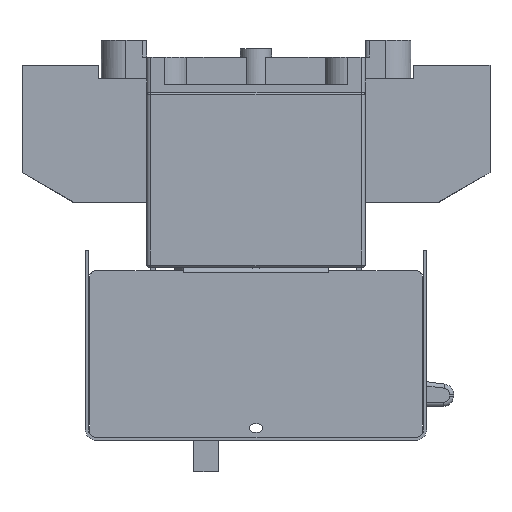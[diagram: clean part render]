
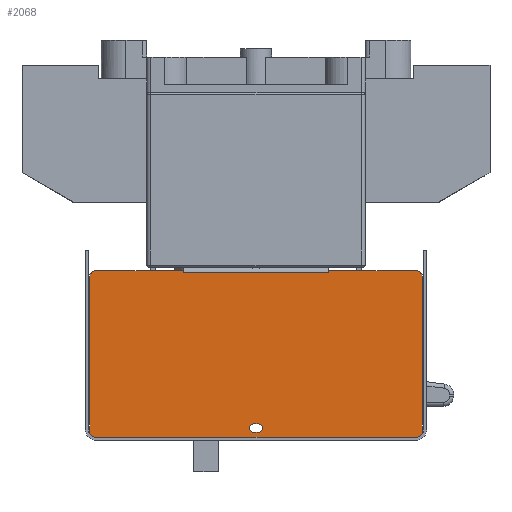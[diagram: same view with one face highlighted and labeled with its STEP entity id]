
A CAD part, left-side view. The second image highlights one B-rep face of the part: STEP entity #2068.
In plain terms, the highlighted planar face has unit normal (-1, 0, 0).
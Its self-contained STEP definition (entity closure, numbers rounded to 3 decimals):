
#2068=ADVANCED_FACE('',(#8703,#8704),#3113,.T.);
#3113=PLANE('',#23918);
#4702=LINE('',#34637,#7209);
#4712=LINE('',#34662,#7219);
#4714=LINE('',#34666,#7221);
#4716=LINE('',#34670,#7223);
#4719=LINE('',#34676,#7226);
#4729=LINE('',#34711,#7236);
#4730=LINE('',#34715,#7237);
#4731=LINE('',#34716,#7238);
#4732=LINE('',#34720,#7239);
#4733=LINE('',#34724,#7240);
#4734=LINE('',#34728,#7241);
#4735=LINE('',#34732,#7242);
#7209=VECTOR('',#27832,1.);
#7219=VECTOR('',#27858,1.);
#7221=VECTOR('',#27862,1.);
#7223=VECTOR('',#27866,1.);
#7226=VECTOR('',#27871,1.);
#7236=VECTOR('',#27899,1.);
#7237=VECTOR('',#27902,1.);
#7238=VECTOR('',#27903,1.);
#7239=VECTOR('',#27906,1.);
#7240=VECTOR('',#27909,1.);
#7241=VECTOR('',#27912,1.);
#7242=VECTOR('',#27915,1.);
#8703=FACE_BOUND('',#9438,.T.);
#8704=FACE_BOUND('',#9439,.T.);
#9438=EDGE_LOOP('',(#13157,#13158,#13159,#13160));
#9439=EDGE_LOOP('',(#13161,#13162,#13163,#13164,#13165,#13166,#13167,#13168,
#13169,#13170,#13171,#13172,#13173,#13174));
#13157=ORIENTED_EDGE('',*,*,#20493,.T.);
#13158=ORIENTED_EDGE('',*,*,#20494,.T.);
#13159=ORIENTED_EDGE('',*,*,#20495,.T.);
#13160=ORIENTED_EDGE('',*,*,#20496,.T.);
#13161=ORIENTED_EDGE('',*,*,#20472,.F.);
#13162=ORIENTED_EDGE('',*,*,#20470,.T.);
#13163=ORIENTED_EDGE('',*,*,#20457,.T.);
#13164=ORIENTED_EDGE('',*,*,#20474,.T.);
#13165=ORIENTED_EDGE('',*,*,#20477,.F.);
#13166=ORIENTED_EDGE('',*,*,#20497,.T.);
#13167=ORIENTED_EDGE('',*,*,#20498,.T.);
#13168=ORIENTED_EDGE('',*,*,#20499,.T.);
#13169=ORIENTED_EDGE('',*,*,#20500,.T.);
#13170=ORIENTED_EDGE('',*,*,#20501,.T.);
#13171=ORIENTED_EDGE('',*,*,#20502,.T.);
#13172=ORIENTED_EDGE('',*,*,#20503,.T.);
#13173=ORIENTED_EDGE('',*,*,#20504,.T.);
#13174=ORIENTED_EDGE('',*,*,#20505,.T.);
#17820=VERTEX_POINT('',#34636);
#17821=VERTEX_POINT('',#34638);
#17826=VERTEX_POINT('',#34659);
#17829=VERTEX_POINT('',#34667);
#17830=VERTEX_POINT('',#34671);
#17832=VERTEX_POINT('',#34677);
#17846=VERTEX_POINT('',#34709);
#17847=VERTEX_POINT('',#34710);
#17848=VERTEX_POINT('',#34712);
#17849=VERTEX_POINT('',#34714);
#17850=VERTEX_POINT('',#34717);
#17851=VERTEX_POINT('',#34719);
#17852=VERTEX_POINT('',#34721);
#17853=VERTEX_POINT('',#34723);
#17854=VERTEX_POINT('',#34725);
#17855=VERTEX_POINT('',#34727);
#17856=VERTEX_POINT('',#34729);
#17857=VERTEX_POINT('',#34731);
#20457=EDGE_CURVE('',#17821,#17820,#4702,.T.);
#20470=EDGE_CURVE('',#17826,#17821,#4712,.T.);
#20472=EDGE_CURVE('',#17826,#17829,#4714,.T.);
#20474=EDGE_CURVE('',#17820,#17830,#4716,.T.);
#20477=EDGE_CURVE('',#17832,#17830,#4719,.T.);
#20493=EDGE_CURVE('',#17846,#17847,#22597,.T.);
#20494=EDGE_CURVE('',#17847,#17848,#4729,.T.);
#20495=EDGE_CURVE('',#17848,#17849,#22598,.T.);
#20496=EDGE_CURVE('',#17849,#17846,#4730,.T.);
#20497=EDGE_CURVE('',#17832,#17850,#4731,.T.);
#20498=EDGE_CURVE('',#17850,#17851,#22599,.T.);
#20499=EDGE_CURVE('',#17851,#17852,#4732,.T.);
#20500=EDGE_CURVE('',#17852,#17853,#22600,.T.);
#20501=EDGE_CURVE('',#17853,#17854,#4733,.T.);
#20502=EDGE_CURVE('',#17854,#17855,#22601,.T.);
#20503=EDGE_CURVE('',#17855,#17856,#4734,.T.);
#20504=EDGE_CURVE('',#17856,#17857,#22602,.T.);
#20505=EDGE_CURVE('',#17857,#17829,#4735,.T.);
#22597=CIRCLE('',#23912,2.1);
#22598=CIRCLE('',#23913,2.1);
#22599=CIRCLE('',#23914,3.);
#22600=CIRCLE('',#23915,3.);
#22601=CIRCLE('',#23916,3.);
#22602=CIRCLE('',#23917,3.);
#23912=AXIS2_PLACEMENT_3D('',#34708,#27897,#27898);
#23913=AXIS2_PLACEMENT_3D('',#34713,#27900,#27901);
#23914=AXIS2_PLACEMENT_3D('',#34718,#27904,#27905);
#23915=AXIS2_PLACEMENT_3D('',#34722,#27907,#27908);
#23916=AXIS2_PLACEMENT_3D('',#34726,#27910,#27911);
#23917=AXIS2_PLACEMENT_3D('',#34730,#27913,#27914);
#23918=AXIS2_PLACEMENT_3D('',#34733,#27916,#27917);
#27832=DIRECTION('',(0.,1.,0.));
#27858=DIRECTION('',(0.,1.,0.));
#27862=DIRECTION('',(0.,0.,1.));
#27866=DIRECTION('',(0.,1.,0.));
#27871=DIRECTION('',(0.,0.,-1.));
#27897=DIRECTION('',(1.,0.,0.));
#27898=DIRECTION('',(0.,1.,0.));
#27899=DIRECTION('',(0.,-1.,0.));
#27900=DIRECTION('',(1.,0.,0.));
#27901=DIRECTION('',(0.,1.,0.));
#27902=DIRECTION('',(0.,1.,0.));
#27903=DIRECTION('',(0.,1.,0.));
#27904=DIRECTION('',(-1.,0.,0.));
#27905=DIRECTION('',(0.,1.,0.));
#27906=DIRECTION('',(0.,0.,-1.));
#27907=DIRECTION('',(-1.,0.,0.));
#27908=DIRECTION('',(0.,1.,0.));
#27909=DIRECTION('',(0.,-1.,0.));
#27910=DIRECTION('',(-1.,0.,0.));
#27911=DIRECTION('',(0.,1.,0.));
#27912=DIRECTION('',(0.,0.,1.));
#27913=DIRECTION('',(-1.,0.,0.));
#27914=DIRECTION('',(0.,1.,0.));
#27915=DIRECTION('',(0.,1.,0.));
#27916=DIRECTION('',(-1.,0.,0.));
#27917=DIRECTION('',(0.,-1.,0.));
#34636=CARTESIAN_POINT('',(-189.3,35.,-86.8));
#34637=CARTESIAN_POINT('',(-189.3,50.5,-86.8));
#34638=CARTESIAN_POINT('',(-189.3,-35.,-86.8));
#34659=CARTESIAN_POINT('',(-189.3,-35.002,-86.8));
#34662=CARTESIAN_POINT('',(-189.3,77.,-86.8));
#34666=CARTESIAN_POINT('',(-189.3,-35.002,-162.8));
#34667=CARTESIAN_POINT('',(-189.3,-35.002,-85.8));
#34670=CARTESIAN_POINT('',(-189.3,77.,-86.8));
#34671=CARTESIAN_POINT('',(-189.3,35.002,-86.8));
#34676=CARTESIAN_POINT('',(-189.3,35.002,-162.8));
#34677=CARTESIAN_POINT('',(-189.3,35.002,-85.8));
#34708=CARTESIAN_POINT('',(-189.3,1.,-161.4));
#34709=CARTESIAN_POINT('',(-189.3,1.,-163.5));
#34710=CARTESIAN_POINT('',(-189.3,1.,-159.3));
#34711=CARTESIAN_POINT('',(-189.3,1.,-159.3));
#34712=CARTESIAN_POINT('',(-189.3,-1.,-159.3));
#34713=CARTESIAN_POINT('',(-189.3,-1.,-161.4));
#34714=CARTESIAN_POINT('',(-189.3,-1.,-163.5));
#34715=CARTESIAN_POINT('',(-189.3,-1.,-163.5));
#34716=CARTESIAN_POINT('',(-189.3,-77.,-85.8));
#34717=CARTESIAN_POINT('',(-189.3,77.,-85.8));
#34718=CARTESIAN_POINT('',(-189.3,77.,-88.8));
#34719=CARTESIAN_POINT('',(-189.3,80.,-88.8));
#34720=CARTESIAN_POINT('',(-189.3,80.,-88.8));
#34721=CARTESIAN_POINT('',(-189.3,80.,-162.8));
#34722=CARTESIAN_POINT('',(-189.3,77.,-162.8));
#34723=CARTESIAN_POINT('',(-189.3,77.,-165.8));
#34724=CARTESIAN_POINT('',(-189.3,77.,-165.8));
#34725=CARTESIAN_POINT('',(-189.3,-77.,-165.8));
#34726=CARTESIAN_POINT('',(-189.3,-77.,-162.8));
#34727=CARTESIAN_POINT('',(-189.3,-80.,-162.8));
#34728=CARTESIAN_POINT('',(-189.3,-80.,-162.8));
#34729=CARTESIAN_POINT('',(-189.3,-80.,-88.8));
#34730=CARTESIAN_POINT('',(-189.3,-77.,-88.8));
#34731=CARTESIAN_POINT('',(-189.3,-77.,-85.8));
#34732=CARTESIAN_POINT('',(-189.3,-77.,-85.8));
#34733=CARTESIAN_POINT('',(-189.3,77.,-162.8));
